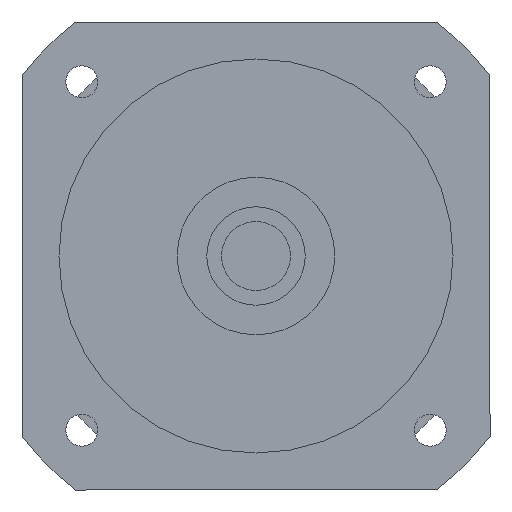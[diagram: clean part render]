
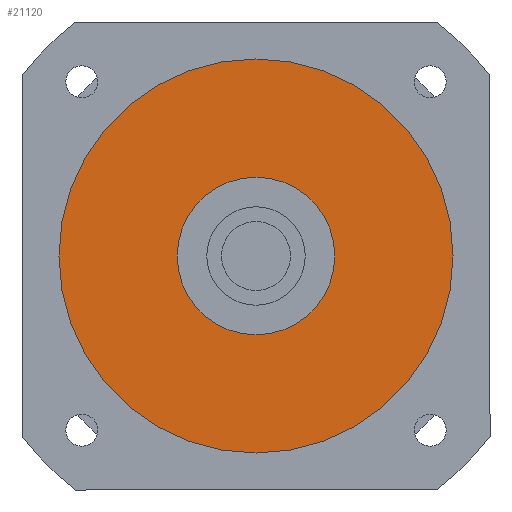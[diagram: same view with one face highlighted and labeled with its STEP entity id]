
A CAD part, left-side view. The second image highlights one B-rep face of the part: STEP entity #21120.
In plain terms, the highlighted planar face has unit normal (-1, 0, 0) as drawn and (0, 0, -1) by its records, which use the part's own axes.
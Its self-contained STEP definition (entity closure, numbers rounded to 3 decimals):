
#20580=CARTESIAN_POINT('',(-40.,0.,-88.5));
#20590=VERTEX_POINT('',#20580);
#20680=CARTESIAN_POINT('',(40.,0.,-88.5));
#20690=VERTEX_POINT('',#20680);
#20720=CARTESIAN_POINT('',(0.,0.,
-88.5));
#20730=DIRECTION('',(0.,0.,1.));
#20740=DIRECTION('',(0.,-1.,0.));
#20750=AXIS2_PLACEMENT_3D('',#20720,#20730,#20740);
#20760=CIRCLE('',#20750,40.);
#20770=CARTESIAN_POINT('',(0.,-40.,-88.5));
#20780=VERTEX_POINT('',#20770);
#20790=EDGE_CURVE('',#20780,#20690,#20760,.T.);
#20810=EDGE_CURVE('',#20590,#20780,#20760,.T.);
#20860=CARTESIAN_POINT('',(0.,0.,
-88.5));
#20870=DIRECTION('',(0.,0.,1.));
#20880=DIRECTION('',(-1.,0.,0.));
#20890=AXIS2_PLACEMENT_3D('',#20860,#20870,#20880);
#20900=PLANE('',#20890);
#20910=ORIENTED_EDGE('',*,*,#20790,.F.);
#20920=EDGE_CURVE('',#20690,#20590,#20760,.T.);
#20930=ORIENTED_EDGE('',*,*,#20920,.F.);
#20940=ORIENTED_EDGE('',*,*,#20810,.F.);
#20950=EDGE_LOOP('',(#20940,#20930,#20910));
#20960=FACE_OUTER_BOUND('',#20950,.T.);
#20970=CARTESIAN_POINT('',(0.,0.,-88.5
));
#20980=DIRECTION('',(0.,0.,1.));
#20990=DIRECTION('',(0.,-1.,0.));
#21000=AXIS2_PLACEMENT_3D('',#20970,#20980,#20990);
#21010=CIRCLE('',#21000,16.);
#21020=CARTESIAN_POINT('',(-16.,0.,-88.5));
#21030=VERTEX_POINT('',#21020);
#21040=CARTESIAN_POINT('',(16.,0.,-88.5));
#21050=VERTEX_POINT('',#21040);
#21060=EDGE_CURVE('',#21030,#21050,#21010,.T.);
#21070=ORIENTED_EDGE('',*,*,#21060,.T.);
#21080=EDGE_CURVE('',#21050,#21030,#21010,.T.);
#21090=ORIENTED_EDGE('',*,*,#21080,.T.);
#21100=EDGE_LOOP('',(#21090,#21070));
#21110=FACE_BOUND('',#21100,.T.);
#21120=ADVANCED_FACE('',(#20960,#21110),#20900,.F.);
